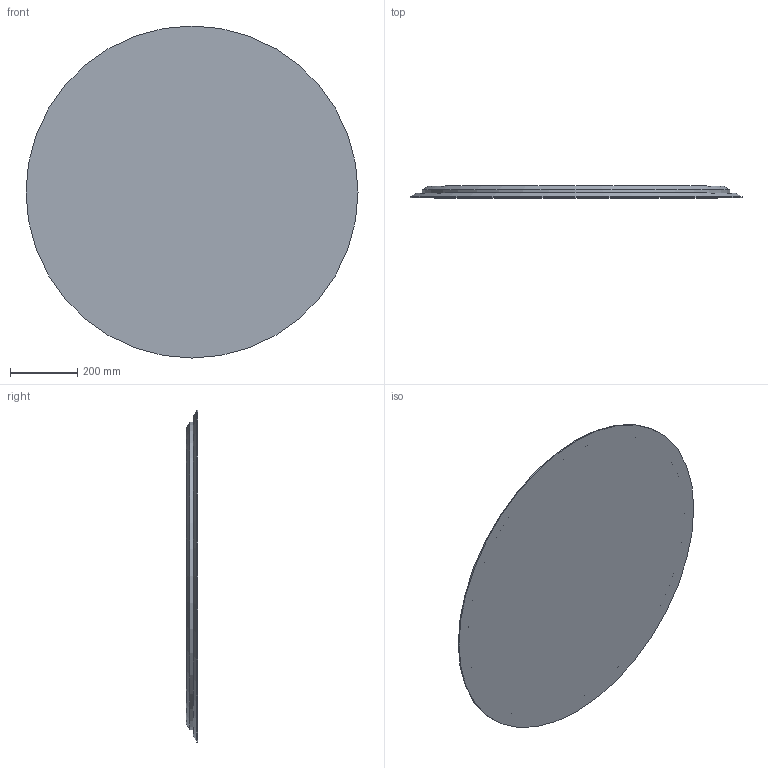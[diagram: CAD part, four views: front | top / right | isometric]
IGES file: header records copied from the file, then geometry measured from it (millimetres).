
Start section: Data from Parasolid IGES Translator 19.0.9, Copyright(c) 2006 Siemens PL M Software. All Rights Reserved.
Global section: file name: noorth-mirror-H 99 D 5,1 W 99_5629.igs; native system: By Siemens PLM Incorporated; preprocessor: XPlus GENERIC/IGES 19.0.9; author: Noname; organization: Noname; date: 20200626.103546; units: metre
Bounding box: 990 x 35 x 990 mm (x, y, z)
Volume: 24034015 mm3; surface area: 3247463.1 mm2
Topology: 2 solids, 2 shells, 10 faces, 13 edges, 9 vertices
Faces by surface type: plane 5, cylinder 2, cone 2, extrusion 1
Full cylindrical faces by diameter (mm): 917.254 x1, 990 x1
